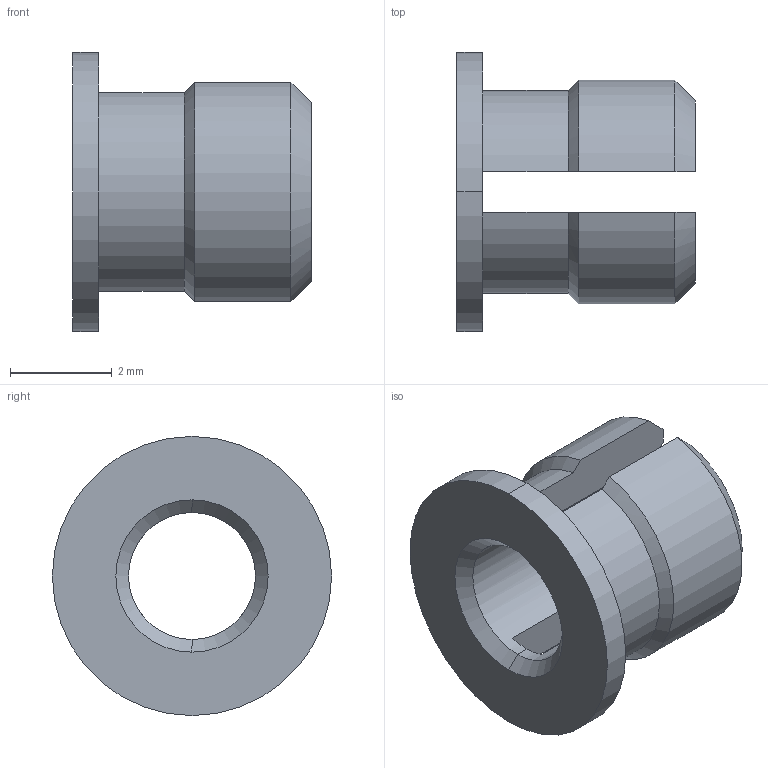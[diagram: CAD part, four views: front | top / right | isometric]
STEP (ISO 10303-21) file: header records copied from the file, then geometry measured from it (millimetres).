
FILE_DESCRIPTION (( 'STEP AP203' ), '1' );
FILE_NAME ('FSUK-EXPH-M03-S.STEP', '2021-04-15T14:54:57', ( '' ), ( '' ), 'SwSTEP 2.0', 'SolidWorks 2021', '' );
FILE_SCHEMA (( 'CONFIG_CONTROL_DESIGN' ));
Length unit declared in the file: millimetre
Products named in the file (1): FSUK-EXPH-M03-S
Bounding box: 4.7 x 5.5 x 5.5 mm (x, y, z)
Volume: 40.8 mm3; surface area: 138.3 mm2
Topology: 1 solids, 1 shells, 24 faces, 64 edges, 42 vertices
Faces by surface type: cylinder 8, cone 8, plane 8
Entity records: 851 total; most frequent: CARTESIAN_POINT 167, DIRECTION 128, ORIENTED_EDGE 128, EDGE_CURVE 64, AXIS2_PLACEMENT_3D 51, VERTEX_POINT 42, VECTOR 26, EDGE_LOOP 26
